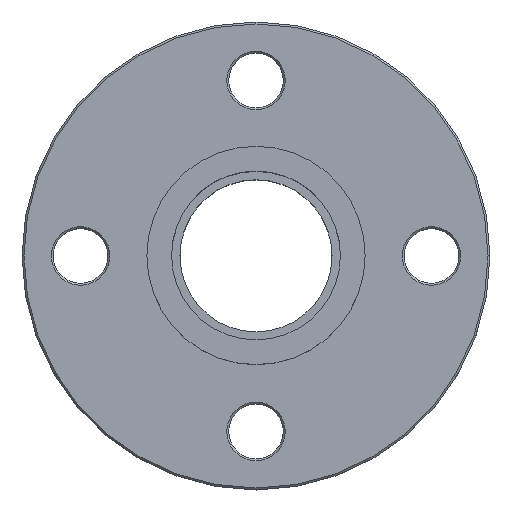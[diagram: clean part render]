
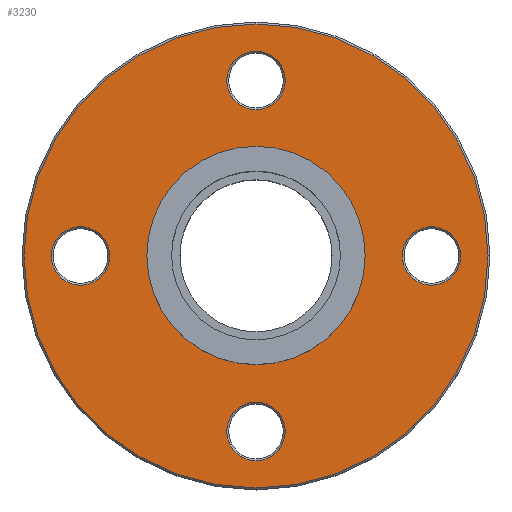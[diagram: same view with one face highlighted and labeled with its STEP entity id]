
A CAD part, top view. The second image highlights one B-rep face of the part: STEP entity #3230.
In plain terms, the highlighted planar face has unit normal (0, 0, 1) as drawn and (0, 1, 0) by its records, which use the part's own axes.
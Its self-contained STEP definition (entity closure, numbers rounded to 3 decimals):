
#120=CARTESIAN_POINT('',(6.5,83.,45.));
#130=VERTEX_POINT('',#120);
#290=CARTESIAN_POINT('',(-8.5,83.,45.));
#300=VERTEX_POINT('',#290);
#330=CARTESIAN_POINT('',(-1.,83.,45.));
#340=DIRECTION('',(0.,-1.,0.));
#350=DIRECTION('',(-1.,0.,0.));
#360=AXIS2_PLACEMENT_3D('',#330,#340,#350);
#370=CIRCLE('',#360,7.5);
#380=EDGE_CURVE('',#300,#130,#370,.T.);
#2380=CARTESIAN_POINT('',(43.275,83.,0.));
#2390=DIRECTION('',(-0.,-1.,-0.));
#2400=DIRECTION('',(-1.,0.,0.));
#2410=AXIS2_PLACEMENT_3D('',#2380,#2390,#2400);
#2420=PLANE('',#2410);
#2430=CARTESIAN_POINT('',(-1.,83.,0.));
#2440=DIRECTION('',(0.,1.,0.));
#2450=DIRECTION('',(0.,0.,-1.));
#2460=AXIS2_PLACEMENT_3D('',#2430,#2440,#2450);
#2470=CIRCLE('',#2460,22.5);
#2480=CARTESIAN_POINT('',(-1.,83.,-22.5));
#2490=VERTEX_POINT('',#2480);
#2500=CARTESIAN_POINT('',(-1.,83.,22.5));
#2510=VERTEX_POINT('',#2500);
#2520=EDGE_CURVE('',#2490,#2510,#2470,.T.);
#2530=ORIENTED_EDGE('',*,*,#2520,.F.);
#2540=EDGE_CURVE('',#2510,#2490,#2470,.T.);
#2550=ORIENTED_EDGE('',*,*,#2540,.F.);
#2560=EDGE_LOOP('',(#2550,#2530));
#2570=FACE_BOUND('',#2560,.T.);
#2580=EDGE_CURVE('',#130,#300,#370,.T.);
#2590=ORIENTED_EDGE('',*,*,#2580,.T.);
#2600=ORIENTED_EDGE('',*,*,#380,.T.);
#2610=EDGE_LOOP('',(#2600,#2590));
#2620=FACE_BOUND('',#2610,.T.);
#2630=CARTESIAN_POINT('',(44.,83.,0.));
#2640=DIRECTION('',(0.,-1.,0.));
#2650=DIRECTION('',(-1.,0.,0.));
#2660=AXIS2_PLACEMENT_3D('',#2630,#2640,#2650);
#2670=CIRCLE('',#2660,7.5);
#2680=CARTESIAN_POINT('',(51.5,83.,0.));
#2690=VERTEX_POINT('',#2680);
#2700=CARTESIAN_POINT('',(36.5,83.,0.));
#2710=VERTEX_POINT('',#2700);
#2720=EDGE_CURVE('',#2690,#2710,#2670,.T.);
#2730=ORIENTED_EDGE('',*,*,#2720,.T.);
#2740=EDGE_CURVE('',#2710,#2690,#2670,.T.);
#2750=ORIENTED_EDGE('',*,*,#2740,.T.);
#2760=EDGE_LOOP('',(#2750,#2730));
#2770=FACE_BOUND('',#2760,.T.);
#2780=CARTESIAN_POINT('',(-1.,83.,-45.));
#2790=DIRECTION('',(0.,-1.,0.));
#2800=DIRECTION('',(-1.,0.,0.));
#2810=AXIS2_PLACEMENT_3D('',#2780,#2790,#2800);
#2820=CIRCLE('',#2810,7.5);
#2830=CARTESIAN_POINT('',(6.5,83.,-45.));
#2840=VERTEX_POINT('',#2830);
#2850=CARTESIAN_POINT('',(-8.5,83.,-45.));
#2860=VERTEX_POINT('',#2850);
#2870=EDGE_CURVE('',#2840,#2860,#2820,.T.);
#2880=ORIENTED_EDGE('',*,*,#2870,.T.);
#2890=EDGE_CURVE('',#2860,#2840,#2820,.T.);
#2900=ORIENTED_EDGE('',*,*,#2890,.T.);
#2910=EDGE_LOOP('',(#2900,#2880));
#2920=FACE_BOUND('',#2910,.T.);
#2930=CARTESIAN_POINT('',(-46.,83.,0.));
#2940=DIRECTION('',(0.,-1.,0.));
#2950=DIRECTION('',(-1.,0.,0.));
#2960=AXIS2_PLACEMENT_3D('',#2930,#2940,#2950);
#2970=CIRCLE('',#2960,7.5);
#2980=CARTESIAN_POINT('',(-38.5,83.,0.));
#2990=VERTEX_POINT('',#2980);
#3000=CARTESIAN_POINT('',(-53.5,83.,0.));
#3010=VERTEX_POINT('',#3000);
#3020=EDGE_CURVE('',#2990,#3010,#2970,.T.);
#3030=ORIENTED_EDGE('',*,*,#3020,.T.);
#3040=EDGE_CURVE('',#3010,#2990,#2970,.T.);
#3050=ORIENTED_EDGE('',*,*,#3040,.T.);
#3060=EDGE_LOOP('',(#3050,#3030));
#3070=FACE_BOUND('',#3060,.T.);
#3080=CARTESIAN_POINT('',(-1.,83.,0.));
#3090=DIRECTION('',(0.,-1.,0.));
#3100=DIRECTION('',(-1.,0.,0.));
#3110=AXIS2_PLACEMENT_3D('',#3080,#3090,#3100);
#3120=CIRCLE('',#3110,59.5);
#3130=CARTESIAN_POINT('',(-60.5,83.,0.));
#3140=VERTEX_POINT('',#3130);
#3150=CARTESIAN_POINT('',(58.5,83.,0.));
#3160=VERTEX_POINT('',#3150);
#3170=EDGE_CURVE('',#3140,#3160,#3120,.T.);
#3180=ORIENTED_EDGE('',*,*,#3170,.F.);
#3190=EDGE_CURVE('',#3160,#3140,#3120,.T.);
#3200=ORIENTED_EDGE('',*,*,#3190,.F.);
#3210=EDGE_LOOP('',(#3200,#3180));
#3220=FACE_OUTER_BOUND('',#3210,.T.);
#3230=ADVANCED_FACE('',(#2570,#2620,#2770,#2920,#3070,#3220),#2420,.F.);
